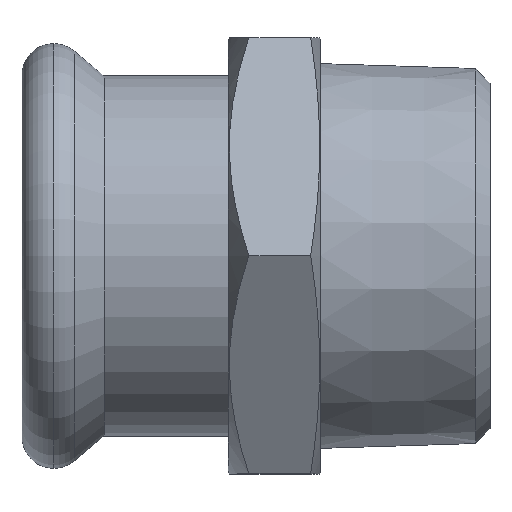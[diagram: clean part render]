
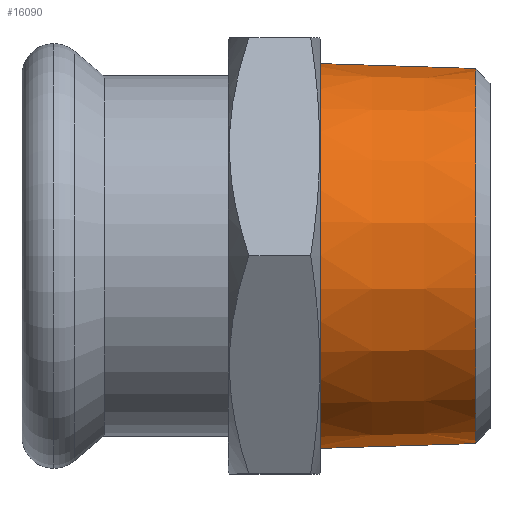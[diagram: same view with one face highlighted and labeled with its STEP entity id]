
A CAD part, top view. The second image highlights one B-rep face of the part: STEP entity #16090.
In plain terms, the highlighted conical face has half-angle 1.79 degrees and reference radius 24.25 mm.
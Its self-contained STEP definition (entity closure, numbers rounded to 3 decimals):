
#10=CARTESIAN_POINT('',(-75.571,-571.484,
0.));
#20=DIRECTION('',(-1.,0.,0.));
#30=DIRECTION('',(0.,-1.,0.));
#40=AXIS2_PLACEMENT_3D('',#10,#20,#30);
#50=CONICAL_SURFACE('',#40,24.25,0.031);
#60=CARTESIAN_POINT('',(-75.571,-547.234,
0.));
#70=DIRECTION('',(-1.,0.031,
0.));
#80=VECTOR('',#70,776.379);
#90=LINE('',#60,#80);
#100=CARTESIAN_POINT('',(-55.97,-547.846,
0.));
#110=VERTEX_POINT('',#100);
#120=CARTESIAN_POINT('',(-75.571,-547.234,
0.));
#130=VERTEX_POINT('',#120);
#140=EDGE_CURVE('',#110,#130,#90,.T.);
#160=CARTESIAN_POINT('',(-75.571,-571.484,
0.));
#170=DIRECTION('',(-1.,0.,0.));
#180=DIRECTION('',(0.,-1.,0.));
#190=AXIS2_PLACEMENT_3D('',#160,#170,#180);
#200=CIRCLE('',#190,24.25);
#210=CARTESIAN_POINT('',(-75.571,-595.734,
0.));
#220=VERTEX_POINT('',#210);
#250=CARTESIAN_POINT('',(-75.571,-595.734,
0.));
#260=DIRECTION('',(-1.,-0.031,
0.));
#270=VECTOR('',#260,776.379);
#280=LINE('',#250,#270);
#290=CARTESIAN_POINT('',(-55.97,-595.121,
0.));
#300=VERTEX_POINT('',#290);
#310=EDGE_CURVE('',#300,#220,#280,.T.);
#330=CARTESIAN_POINT('',(-55.97,-571.484,
0.));
#340=DIRECTION('',(-1.,0.,0.));
#350=DIRECTION('',(0.,-1.,0.));
#360=AXIS2_PLACEMENT_3D('',#330,#340,#350);
#370=CIRCLE('',#360,23.637);
#12380=EDGE_CURVE('',#220,#130,#200,.T.);
#15950=EDGE_CURVE('',#300,#110,#370,.T.);
#16030=ORIENTED_EDGE('',*,*,#140,.T.);
#16040=ORIENTED_EDGE('',*,*,#15950,.T.);
#16050=ORIENTED_EDGE('',*,*,#310,.F.);
#16060=ORIENTED_EDGE('',*,*,#12380,.F.);
#16070=EDGE_LOOP('',(#16060,#16050,#16040,#16030));
#16080=FACE_OUTER_BOUND('',#16070,.T.);
#16090=ADVANCED_FACE('',(#16080),#50,.T.);
